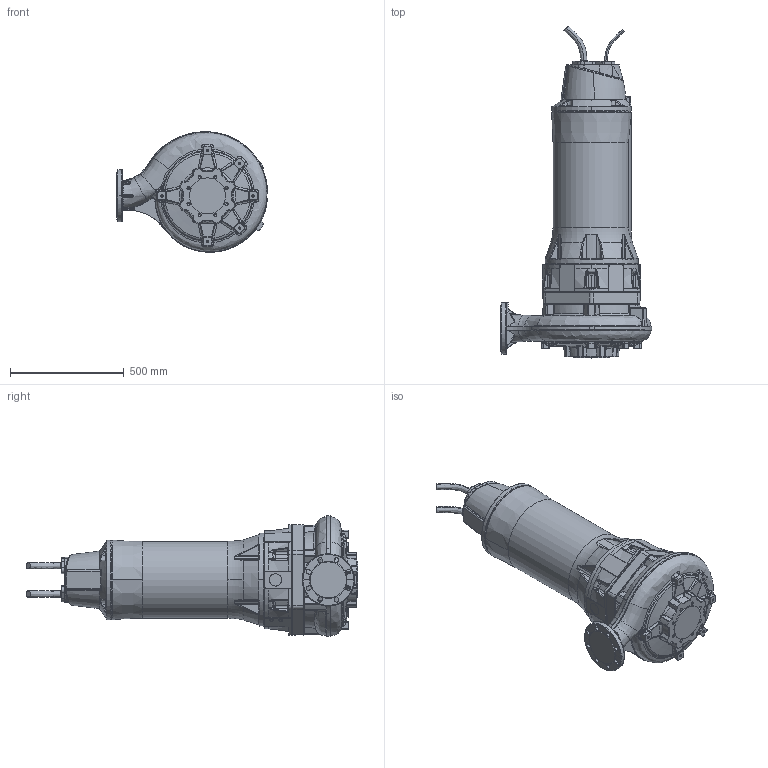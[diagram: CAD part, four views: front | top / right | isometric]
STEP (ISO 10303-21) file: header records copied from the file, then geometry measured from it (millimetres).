
FILE_DESCRIPTION (( 'STEP AP214' ), '1' );
FILE_NAME ('PE4_XFP100J-CH2_MOTOR OK_B_NG2.STEP', '2017-03-14T12:24:22', ( '' ), ( '' ), 'SwSTEP 2.0', 'SolidWorks 2017', '' );
FILE_SCHEMA (( 'AUTOMOTIVE_DESIGN' ));
Length unit declared in the file: millimetre
Products named in the file (1): PE4_XFP100J-CH2_MOTOR OK_B_NG2
Bounding box: 663.78 x 1456.58 x 529.04 mm (x, y, z)
Volume: 138731782.6 mm3; surface area: 2083206.9 mm2
Topology: 1 solids, 1 shells, 1887 faces, 4649 edges, 2740 vertices
Faces by surface type: bspline 718, cylinder 409, plane 336, cone 187, torus 169, sphere 68
Entity records: 141436 total; most frequent: CARTESIAN_POINT 82003, ORIENTED_EDGE 9178, DIRECTION 6785, EDGE_CURVE 4589, AXIS2_PLACEMENT_3D 2872, VERTEX_POINT 2740, EDGE_LOOP 1939, UNCERTAINTY_MEASURE_WITH_UNIT 1890
